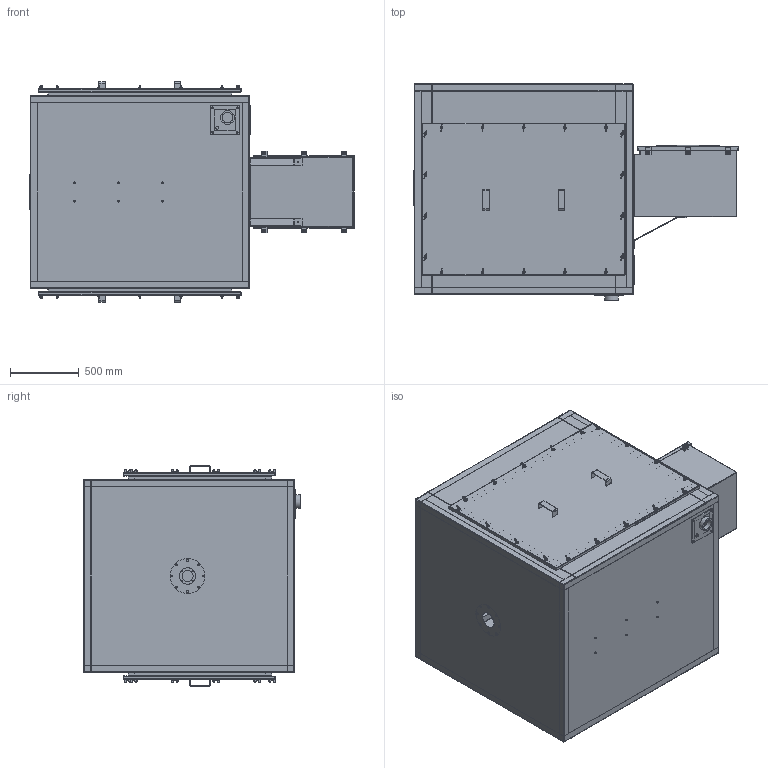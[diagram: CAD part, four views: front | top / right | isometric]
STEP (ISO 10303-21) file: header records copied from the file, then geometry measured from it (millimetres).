
FILE_DESCRIPTION(/* description */ (''),/* implementation_level */ '2;1');
FILE_NAME(/* name */ 'K:\MANDARIC\20KV-FO.stp',/* time_stamp */ '2017-11-30T17:57:26+01:00',/* author */ ('milman01'),/* organization */ ('Hillmar Industries Ltd.'),/* preprocessor_version */ 'ST-DEVELOPER v16.1',/* originating_system */ 'Autodesk Inventor 2016',/* authorisation */ '');
FILE_SCHEMA (('AUTOMOTIVE_DESIGN { 1 0 10303 214 3 1 1 }'));
Products named in the file (1): 20KV-FO
Bounding box: 2365.69 x 1577.07 x 1606.6 mm (x, y, z)
Volume: 42150560.8 mm3; surface area: 39022595.7 mm2
Topology: 12 solids, 19 shells, 1932 faces, 5046 edges, 3235 vertices
Faces by surface type: plane 1355, cylinder 397, cone 180
Full cylindrical faces by diameter (mm): 7 x4, 8.376 x36, 9 x4, 11 x12, 12 x4, 13 x30, 14 x8, 14.3 x8, 14.5 x8, 22.225 x1, 63.5 x1, 76.2 x1, 80 x2, 101.6 x1, 102 x1, 118.3 x1, 120 x1, 254 x1
Entity records: 59119 total; most frequent: CARTESIAN_POINT 10398, DIRECTION 9626, ORIENTED_EDGE 9548, EDGE_CURVE 4770, AXIS2_PLACEMENT_3D 3211, LINE 3204, VECTOR 3204, VERTEX_POINT 3119
